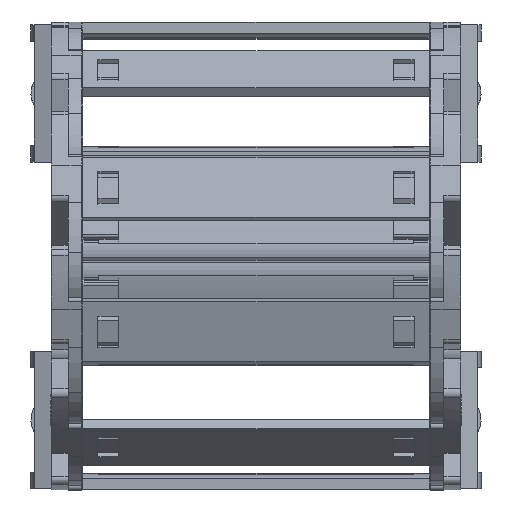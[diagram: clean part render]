
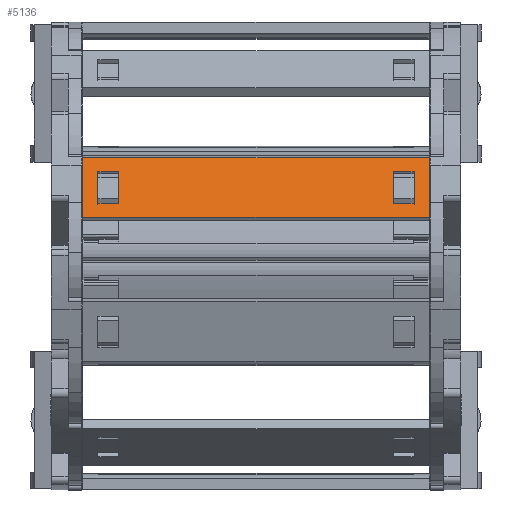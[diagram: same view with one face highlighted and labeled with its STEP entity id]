
A CAD part, top view. The second image highlights one B-rep face of the part: STEP entity #5136.
In plain terms, the highlighted planar face has unit normal (0, 0.309, 0.951) as drawn and (0, 1, 0) by its records, which use the part's own axes.
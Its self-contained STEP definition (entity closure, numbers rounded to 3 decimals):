
#4541=DIRECTION('',(0.,0.,-1.));
#4542=VECTOR('',#4541,11.);
#4543=CARTESIAN_POINT('',(49.283,1.24,5.5));
#4544=LINE('',#4543,#4542);
#4567=DIRECTION('',(1.,0.,0.));
#4568=VECTOR('',#4567,60.5);
#4569=CARTESIAN_POINT('',(-11.217,1.24,5.5));
#4570=LINE('',#4569,#4568);
#4571=DIRECTION('',(0.,0.,1.));
#4572=VECTOR('',#4571,11.);
#4573=CARTESIAN_POINT('',(-11.217,1.24,-5.5));
#4574=LINE('',#4573,#4572);
#4597=DIRECTION('',(1.,0.,0.));
#4598=VECTOR('',#4597,60.5);
#4599=CARTESIAN_POINT('',(-11.217,1.24,-5.5));
#4600=LINE('',#4599,#4598);
#4601=DIRECTION('',(1.,0.,0.));
#4602=VECTOR('',#4601,3.6);
#4603=CARTESIAN_POINT('',(-8.605,1.24,2.899));
#4604=LINE('',#4603,#4602);
#4605=DIRECTION('',(0.,0.,-1.));
#4606=VECTOR('',#4605,5.798);
#4607=CARTESIAN_POINT('',(-5.005,1.24,2.899));
#4608=LINE('',#4607,#4606);
#4609=DIRECTION('',(-1.,0.,0.));
#4610=VECTOR('',#4609,3.6);
#4611=CARTESIAN_POINT('',(-5.005,1.24,-2.899));
#4612=LINE('',#4611,#4610);
#4613=DIRECTION('',(0.,0.,1.));
#4614=VECTOR('',#4613,5.798);
#4615=CARTESIAN_POINT('',(-8.605,1.24,-2.899));
#4616=LINE('',#4615,#4614);
#4617=DIRECTION('',(1.,0.,0.));
#4618=VECTOR('',#4617,3.6);
#4619=CARTESIAN_POINT('',(43.071,1.24,2.899));
#4620=LINE('',#4619,#4618);
#4621=DIRECTION('',(0.,0.,-1.));
#4622=VECTOR('',#4621,5.798);
#4623=CARTESIAN_POINT('',(46.671,1.24,2.899));
#4624=LINE('',#4623,#4622);
#4625=DIRECTION('',(-1.,0.,0.));
#4626=VECTOR('',#4625,3.6);
#4627=CARTESIAN_POINT('',(46.671,1.24,-2.899));
#4628=LINE('',#4627,#4626);
#4629=DIRECTION('',(0.,0.,1.));
#4630=VECTOR('',#4629,5.798);
#4631=CARTESIAN_POINT('',(43.071,1.24,-2.899));
#4632=LINE('',#4631,#4630);
#4940=CARTESIAN_POINT('',(49.283,1.24,5.5));
#4942=VERTEX_POINT('',#4940);
#4943=CARTESIAN_POINT('',(49.283,1.24,-5.5));
#4944=VERTEX_POINT('',#4943);
#4951=CARTESIAN_POINT('',(43.071,1.24,2.899));
#4952=CARTESIAN_POINT('',(46.671,1.24,2.899));
#4953=VERTEX_POINT('',#4951);
#4954=VERTEX_POINT('',#4952);
#4955=CARTESIAN_POINT('',(46.671,1.24,-2.899));
#4956=VERTEX_POINT('',#4955);
#4957=CARTESIAN_POINT('',(43.071,1.24,-2.899));
#4958=VERTEX_POINT('',#4957);
#4995=CARTESIAN_POINT('',(-11.217,1.24,5.5));
#4997=VERTEX_POINT('',#4995);
#4999=CARTESIAN_POINT('',(-11.217,1.24,-5.5));
#5000=VERTEX_POINT('',#4999);
#5007=CARTESIAN_POINT('',(-8.605,1.24,2.899));
#5008=CARTESIAN_POINT('',(-5.005,1.24,2.899));
#5009=VERTEX_POINT('',#5007);
#5010=VERTEX_POINT('',#5008);
#5011=CARTESIAN_POINT('',(-5.005,1.24,-2.899));
#5012=VERTEX_POINT('',#5011);
#5013=CARTESIAN_POINT('',(-8.605,1.24,-2.899));
#5014=VERTEX_POINT('',#5013);
#5104=CARTESIAN_POINT('',(61.769,1.24,6.978));
#5105=DIRECTION('',(0.,-1.,0.));
#5106=DIRECTION('',(0.,0.,-1.));
#5107=AXIS2_PLACEMENT_3D('',#5104,#5105,#5106);
#5108=PLANE('',#5107);
#5109=ORIENTED_EDGE('',*,*,#5050,.F.);
#5110=ORIENTED_EDGE('',*,*,#5073,.F.);
#5111=ORIENTED_EDGE('',*,*,#5086,.F.);
#5113=ORIENTED_EDGE('',*,*,#5112,.T.);
#5114=EDGE_LOOP('',(#5109,#5110,#5111,#5113));
#5115=FACE_OUTER_BOUND('',#5114,.F.);
#5117=ORIENTED_EDGE('',*,*,#5116,.T.);
#5119=ORIENTED_EDGE('',*,*,#5118,.T.);
#5121=ORIENTED_EDGE('',*,*,#5120,.T.);
#5123=ORIENTED_EDGE('',*,*,#5122,.T.);
#5124=EDGE_LOOP('',(#5117,#5119,#5121,#5123));
#5125=FACE_BOUND('',#5124,.F.);
#5127=ORIENTED_EDGE('',*,*,#5126,.T.);
#5129=ORIENTED_EDGE('',*,*,#5128,.T.);
#5131=ORIENTED_EDGE('',*,*,#5130,.T.);
#5133=ORIENTED_EDGE('',*,*,#5132,.T.);
#5134=EDGE_LOOP('',(#5127,#5129,#5131,#5133));
#5135=FACE_BOUND('',#5134,.F.);
#5136=ADVANCED_FACE('',(#5115,#5125,#5135),#5108,.F.);
#5050=EDGE_CURVE('',#4942,#4944,#4544,.T.);
#5073=EDGE_CURVE('',#4997,#4942,#4570,.T.);
#5086=EDGE_CURVE('',#5000,#4997,#4574,.T.);
#5112=EDGE_CURVE('',#5000,#4944,#4600,.T.);
#5116=EDGE_CURVE('',#5009,#5010,#4604,.T.);
#5118=EDGE_CURVE('',#5010,#5012,#4608,.T.);
#5120=EDGE_CURVE('',#5012,#5014,#4612,.T.);
#5122=EDGE_CURVE('',#5014,#5009,#4616,.T.);
#5126=EDGE_CURVE('',#4953,#4954,#4620,.T.);
#5128=EDGE_CURVE('',#4954,#4956,#4624,.T.);
#5130=EDGE_CURVE('',#4956,#4958,#4628,.T.);
#5132=EDGE_CURVE('',#4958,#4953,#4632,.T.);
